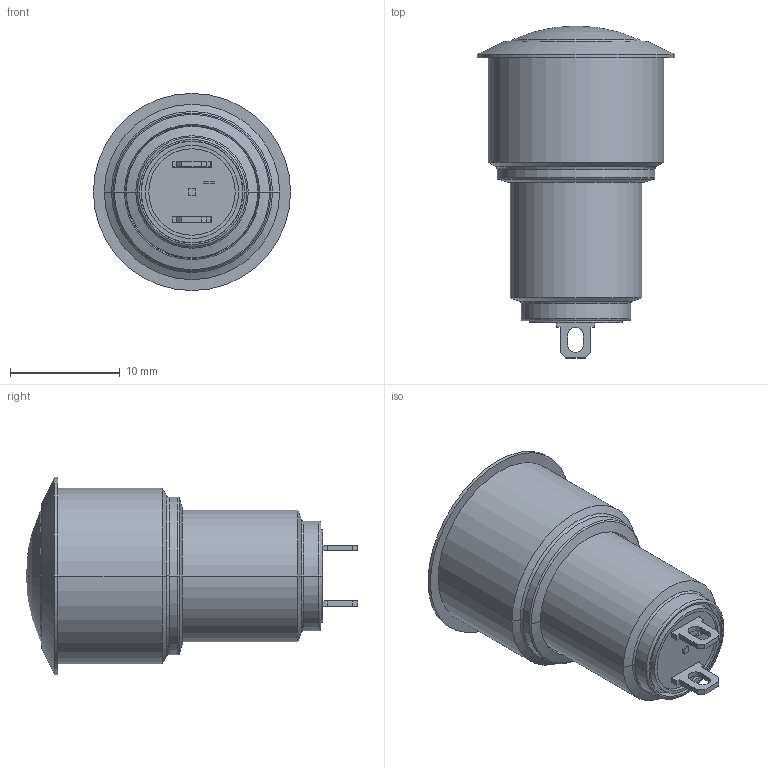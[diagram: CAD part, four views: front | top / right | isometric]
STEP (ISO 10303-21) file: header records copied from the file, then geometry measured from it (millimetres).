
FILE_DESCRIPTION((''),'2;1');
FILE_NAME('AV1611A240_','2011-11-15T',('rboyer'),(''),'PRO/ENGINEER BY PARAMETRIC TECHNOLOGY CORPORATION, 2011250','PRO/ENGINEER BY PARAMETRIC TECHNOLOGY CORPORATION, 2011250','');
FILE_SCHEMA(('CONFIG_CONTROL_DESIGN'));
Length unit declared in the file: millimetre
Products named in the file (1): AV1611A240_
Bounding box: 18 x 30.3 x 18 mm (x, y, z)
Volume: 2813.4 mm3; surface area: 4066.7 mm2
Topology: 1 solids, 1 shells, 271 faces, 756 edges, 482 vertices
Faces by surface type: plane 150, cylinder 65, cone 36, torus 18, sphere 2
Entity records: 8811 total; most frequent: CARTESIAN_POINT 1641, DIRECTION 1507, ORIENTED_EDGE 1504, EDGE_CURVE 752, AXIS2_PLACEMENT_3D 514, VERTEX_POINT 482, VECTOR 479, LINE 479
